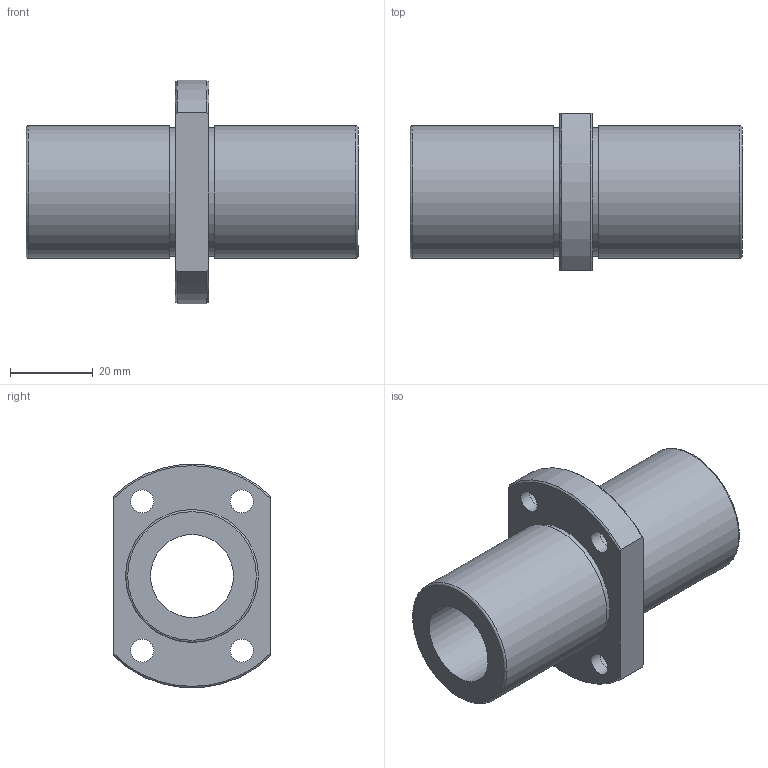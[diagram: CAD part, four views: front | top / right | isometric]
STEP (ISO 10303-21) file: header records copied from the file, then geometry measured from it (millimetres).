
FILE_DESCRIPTION(('STEP AP203'),'1');
FILE_NAME('//192.168.1.1/share/s-4 技術開発/s-4-4_CAD/s-4-4-3_見直し済み/002 修正済み/NFCO-VL/NFCO-VL_TOP/NFCO-20VLUU.step','2022-03-08T05:34:46',(' '),(' '),'Spatial InterOp 3D',' ',' ');
FILE_SCHEMA(('CONFIG_CONTROL_DESIGN'));
Length unit declared in the file: millimetre
Products named in the file (1): 1
Bounding box: 80 x 38 x 53.8 mm (x, y, z)
Volume: 45963.7 mm3; surface area: 17350.8 mm2
Topology: 1 solids, 1 shells, 33 faces, 69 edges, 46 vertices
Faces by surface type: cylinder 15, plane 12, cone 4, torus 2
Full cylindrical faces by diameter (mm): 5.5 x4, 9 x4, 20 x1, 31 x2, 32 x2
Entity records: 878 total; most frequent: CARTESIAN_POINT 154, DIRECTION 148, ORIENTED_EDGE 104, AXIS2_PLACEMENT_3D 70, EDGE_LOOP 66, EDGE_CURVE 52, FACE_OUTER_BOUND 48, VERTEX_POINT 44
